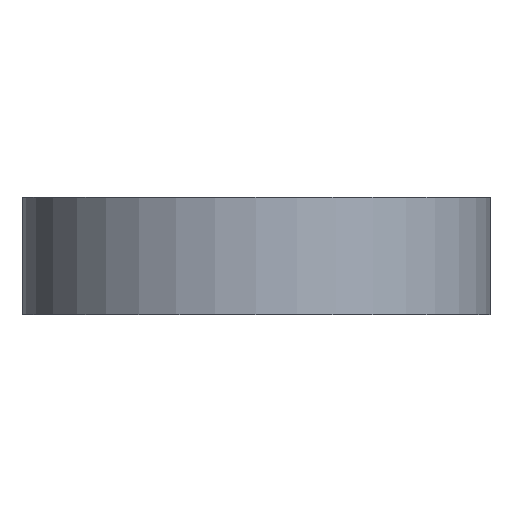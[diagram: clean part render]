
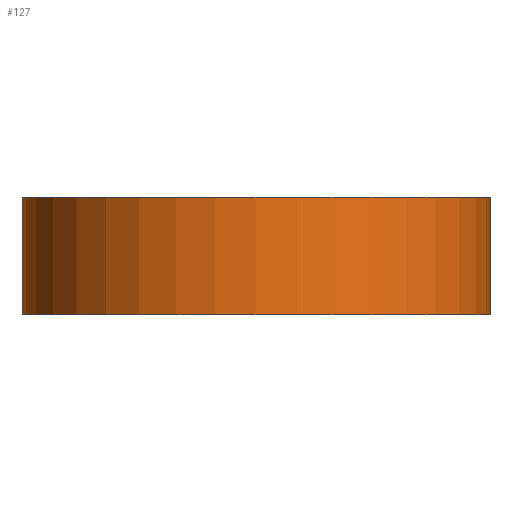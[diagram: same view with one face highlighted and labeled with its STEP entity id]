
A CAD part, front view. The second image highlights one B-rep face of the part: STEP entity #127.
In plain terms, the highlighted cylindrical face has radius 10 mm (diameter 20 mm), a partial arc.
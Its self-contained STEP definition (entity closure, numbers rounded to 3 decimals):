
#24=FACE_OUTER_BOUND('',#32,.T.);
#32=EDGE_LOOP('',(#103,#104,#105,#106));
#42=LINE('',#227,#51);
#43=LINE('',#231,#52);
#51=VECTOR('',#188,10.);
#52=VECTOR('',#193,10.);
#59=CIRCLE('',#157,10.);
#60=CIRCLE('',#160,10.);
#67=VERTEX_POINT('',#217);
#68=VERTEX_POINT('',#219);
#70=VERTEX_POINT('',#225);
#71=VERTEX_POINT('',#229);
#79=EDGE_CURVE('',#67,#68,#59,.T.);
#83=EDGE_CURVE('',#67,#70,#42,.T.);
#84=EDGE_CURVE('',#71,#70,#60,.T.);
#85=EDGE_CURVE('',#68,#71,#43,.T.);
#103=ORIENTED_EDGE('',*,*,#83,.T.);
#104=ORIENTED_EDGE('',*,*,#84,.F.);
#105=ORIENTED_EDGE('',*,*,#85,.F.);
#106=ORIENTED_EDGE('',*,*,#79,.F.);
#122=CYLINDRICAL_SURFACE('',#159,10.);
#127=ADVANCED_FACE('',(#24),#122,.T.);
#157=AXIS2_PLACEMENT_3D('',#220,#181,#182);
#159=AXIS2_PLACEMENT_3D('',#228,#189,#190);
#160=AXIS2_PLACEMENT_3D('',#230,#191,#192);
#181=DIRECTION('center_axis',(0.,0.,-1.));
#182=DIRECTION('ref_axis',(-1.,0.,0.));
#188=DIRECTION('',(0.,0.,1.));
#189=DIRECTION('center_axis',(0.,0.,1.));
#190=DIRECTION('ref_axis',(-1.,0.,0.));
#191=DIRECTION('center_axis',(0.,0.,1.));
#192=DIRECTION('ref_axis',(-1.,0.,0.));
#193=DIRECTION('',(0.,0.,1.));
#217=CARTESIAN_POINT('',(10.,-70.,-2.5));
#219=CARTESIAN_POINT('',(-10.,-70.,-2.5));
#220=CARTESIAN_POINT('Origin',(0.,-70.,-2.5));
#225=CARTESIAN_POINT('',(10.,-70.,2.5));
#227=CARTESIAN_POINT('',(10.,-70.,0.));
#228=CARTESIAN_POINT('Origin',(0.,-70.,0.));
#229=CARTESIAN_POINT('',(-10.,-70.,2.5));
#230=CARTESIAN_POINT('Origin',(0.,-70.,2.5));
#231=CARTESIAN_POINT('',(-10.,-70.,0.));
